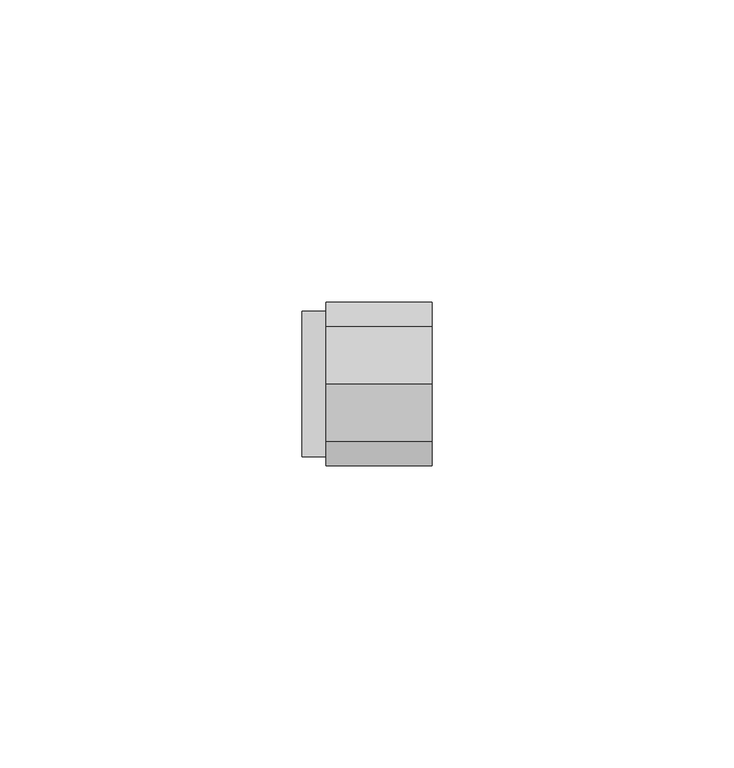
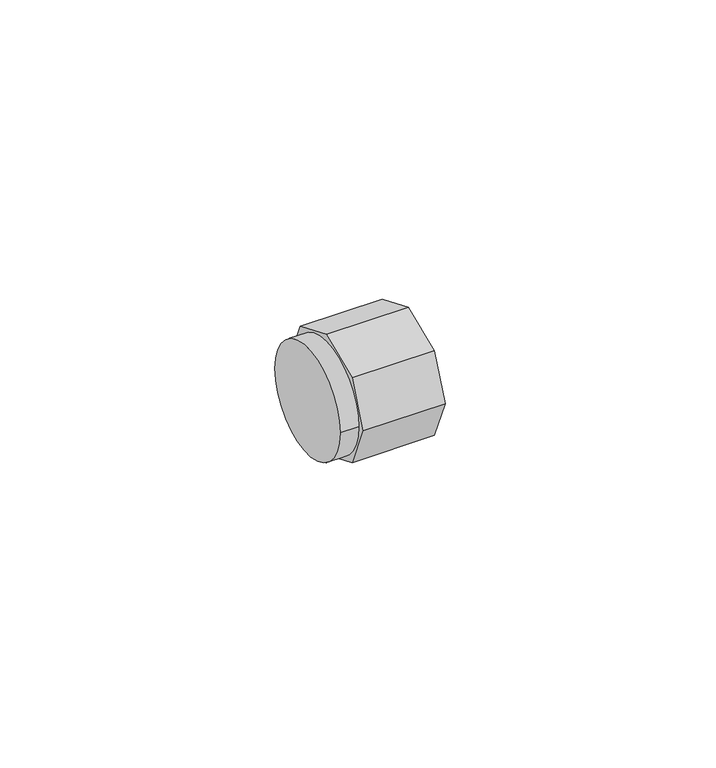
"""IFC4 building model written with IfcOpenShell, lengths in millimetres: pipe fitting geometry, REHAU_RAUTITAN_Cap_RX+ : REHAU_RAUTITAN_Cap_RX+."""

import ifcopenshell
import ifcopenshell.guid

model = None  # the IFC model being written
_history = None  # IfcOwnerHistory: only IFC2X3 demands one
_inside = {}  # id of a spatial element -> (the spatial element, [elements in it])
_under = {}  # id of a project, library or spatial element -> (it, [spatial elements below it])
_declared = {}  # id of a project -> (the project, [libraries it declares])
_typed = {}  # id of a type object -> (the type object, [elements of that type])
_made_of = {}  # id of a material, layer set ... -> (it, [elements and type objects made of it])


def new_model(schema):
    """Start an empty IFC model of exactly this schema.

    Asked for "IFC4X3", IfcOpenShell would pick the latest addendum, in which some entities
    have other attributes; the version numbers below select the first issue.
    IFC2X3 requires an IfcOwnerHistory on every rooted entity: one is made here for all.
    """
    global model, _history
    if schema == "IFC4X3":
        model = ifcopenshell.file(schema_version=(4, 3, 0, 0))
    else:
        model = ifcopenshell.file(schema=schema)
    _inside.clear()
    _under.clear()
    _declared.clear()
    _typed.clear()
    _made_of.clear()
    _history = None
    if model.schema == "IFC2X3":
        org = make("IfcOrganization", Name="unknown")
        user = make(
            "IfcPersonAndOrganization",
            ThePerson=make("IfcPerson", FamilyName="unknown"),
            TheOrganization=org,
        )
        app = make(
            "IfcApplication",
            ApplicationDeveloper=org,
            Version="unknown",
            ApplicationFullName="unknown",
            ApplicationIdentifier="unknown",
        )
        _history = make(
            "IfcOwnerHistory",
            OwningUser=user,
            OwningApplication=app,
            ChangeAction="ADDED",
            CreationDate=0,
        )
    return model


def make(cls, **values):
    """One entity of the class cls with the attributes given. An attribute that is None is left unset."""
    return model.create_entity(
        cls, **{name: value for name, value in values.items() if value is not None}
    )


def rooted(cls, **values):
    """An entity with a GlobalId (a new one), such as an element, a storey or a relation."""
    return make(cls, GlobalId=ifcopenshell.guid.new(), OwnerHistory=_history, **values)


def si_unit(unit_type, name, prefix=None):
    """IfcSIUnit, for example si_unit("LENGTHUNIT", "METRE", prefix="MILLI")."""
    return make("IfcSIUnit", UnitType=unit_type, Prefix=prefix, Name=name)


def assignment(units):
    """IfcUnitAssignment: the units of a project."""
    return None if units is None else make("IfcUnitAssignment", Units=units)


def point(xyz):
    """IfcCartesianPoint."""
    return None if xyz is None else make("IfcCartesianPoint", Coordinates=xyz)


def direction(xyz):
    """IfcDirection."""
    return None if xyz is None else make("IfcDirection", DirectionRatios=xyz)


def frame(location, z_axis=None, x_axis=None):
    """IfcAxis2Placement3D, a coordinate frame: its origin and axes. An axis left out is left unset."""
    return make(
        "IfcAxis2Placement3D",
        Location=point(location),
        Axis=direction(z_axis),
        RefDirection=direction(x_axis),
    )


def frame_2d(location, x_axis=None):
    """IfcAxis2Placement2D, a coordinate frame in the plane: its origin and x axis."""
    return make(
        "IfcAxis2Placement2D", Location=point(location), RefDirection=direction(x_axis)
    )


def origin():
    """The frame at (0, 0, 0) with its axes left unset."""
    return frame((0.0, 0.0, 0.0))


def origin_2d():
    """The frame at (0, 0) in the plane with its x axis left unset."""
    return frame_2d((0.0, 0.0))


def place(relative_to, where):
    """IfcLocalPlacement: puts the frame where relative to a parent placement (None: the world)."""
    return make(
        "IfcLocalPlacement", PlacementRelTo=relative_to, RelativePlacement=where
    )


def context(
    kind, dimensions, precision=None, world=None, true_north=None, identifier=None
):
    """IfcGeometricRepresentationContext, for example the 3D "Model" context."""
    return make(
        "IfcGeometricRepresentationContext",
        ContextIdentifier=identifier,
        ContextType=kind,
        CoordinateSpaceDimension=dimensions,
        Precision=precision,
        WorldCoordinateSystem=world,
        TrueNorth=true_north,
    )


def project(units=None, contexts=None):
    """IfcProject with its units and contexts."""
    return rooted(
        "IfcProject",
        Name="project",
        RepresentationContexts=contexts,
        UnitsInContext=assignment(units),
    )


def spatial(cls, under=None, at=None, **own):
    """A site, building, storey or space (cls), placed at a placement, below another one or the project."""
    s = rooted(cls, ObjectPlacement=at, **own)
    if under is not None:
        _under.setdefault(under.id(), (under, []))[1].append(s)
    return s


def polyline(points):
    """IfcPolyline through the points."""
    return make("IfcPolyline", Points=[point(p) for p in points])


def circle_curve(where, radius):
    """IfcCircle in the frame where."""
    return make("IfcCircle", Position=where, Radius=radius)


def trimmed(basis, trim1, trim2, sense, master):
    """IfcTrimmedCurve: the piece of a basis curve between two trims."""
    return make(
        "IfcTrimmedCurve",
        BasisCurve=basis,
        Trim1=trim1,
        Trim2=trim2,
        SenseAgreement=sense,
        MasterRepresentation=master,
    )


def segment(curve, same_sense, transition):
    """IfcCompositeCurveSegment."""
    return make(
        "IfcCompositeCurveSegment",
        Transition=transition,
        SameSense=same_sense,
        ParentCurve=curve,
    )


def composite_curve(segments, self_intersect=None):
    """IfcCompositeCurve: segments joined end to end."""
    return make("IfcCompositeCurve", Segments=segments, SelfIntersect=self_intersect)


def outline(outer, holes=None, kind="AREA"):
    """IfcArbitraryClosedProfileDef: a profile drawn as a closed curve; with holes, ...WithVoids."""
    if holes is None:
        return make("IfcArbitraryClosedProfileDef", ProfileType=kind, OuterCurve=outer)
    return make(
        "IfcArbitraryProfileDefWithVoids",
        ProfileType=kind,
        OuterCurve=outer,
        InnerCurves=holes,
    )


def extrude(swept, where, along, depth):
    """IfcExtrudedAreaSolid: the profile swept, set in the frame where, extruded along a direction by depth."""
    return make(
        "IfcExtrudedAreaSolid",
        SweptArea=swept,
        Position=where,
        ExtrudedDirection=direction(along),
        Depth=depth,
    )


def shape(context_of_items, identifier, shape_type, items):
    """IfcShapeRepresentation: the items that make up one representation, for example the "Body"."""
    return make(
        "IfcShapeRepresentation",
        ContextOfItems=context_of_items,
        RepresentationIdentifier=identifier,
        RepresentationType=shape_type,
        Items=items,
    )


def source(mapping_origin, context_of_items, identifier, shape_type, items):
    """IfcRepresentationMap: a shape defined once, which mapped items show again and again."""
    return make(
        "IfcRepresentationMap",
        MappingOrigin=mapping_origin,
        MappedRepresentation=shape(context_of_items, identifier, shape_type, items),
    )


def transform(
    local_origin,
    x_axis=None,
    y_axis=None,
    z_axis=None,
    scale=None,
    scale2=None,
    scale3=None,
    uniform=True,
):
    """IfcCartesianTransformationOperator3D, or its non-uniform kind. x_axis, y_axis, z_axis: its Axis1, 2, 3."""
    if uniform:
        return make(
            "IfcCartesianTransformationOperator3D",
            Axis1=direction(x_axis),
            Axis2=direction(y_axis),
            LocalOrigin=point(local_origin),
            Scale=scale,
            Axis3=direction(z_axis),
        )
    return make(
        "IfcCartesianTransformationOperator3DnonUniform",
        Axis1=direction(x_axis),
        Axis2=direction(y_axis),
        LocalOrigin=point(local_origin),
        Scale=scale,
        Axis3=direction(z_axis),
        Scale2=scale2,
        Scale3=scale3,
    )


def mapped(mapping_source, mapping_target):
    """IfcMappedItem: shows the shape of a source again, moved by a transform."""
    return make(
        "IfcMappedItem", MappingSource=mapping_source, MappingTarget=mapping_target
    )


def made_of(thing, what):
    """Note that an element or type object is made of a material, layer set ...; save() writes the relation."""
    if what is not None:
        _made_of.setdefault(what.id(), (what, []))[1].append(thing)
    return thing


def element(
    cls,
    number,
    at=None,
    inside=None,
    cuts=None,
    type_object=None,
    material=None,
    context=None,
    identifier="Body",
    shape_type=None,
    held_by="IfcProductDefinitionShape",
    body=None,
    shapes=None,
    **own,
):
    """One element of the class cls, such as IfcWall. Its Tag is "e" and its number.

    at: its placement. inside: the storey or other place that contains it. cuts: it is an
    opening in that element (IfcRelVoidsElement). A single representation is given by context,
    identifier, shape_type and body (its items); several are given by shapes. held_by: the class
    of the entity that holds the representations. save() writes the other relations.
    """
    e = rooted(cls, Tag="e%d" % number, ObjectPlacement=at, **own)
    if body is not None:
        shapes = [shape(context, identifier, shape_type, body)]
    if shapes is not None:
        e.Representation = make(held_by, Representations=shapes)
    if inside is not None:
        _inside.setdefault(inside.id(), (inside, []))[1].append(e)
    if cuts is not None:
        rooted(
            "IfcRelVoidsElement", RelatingBuildingElement=cuts, RelatedOpeningElement=e
        )
    if type_object is not None:
        _typed.setdefault(type_object.id(), (type_object, []))[1].append(e)
    return made_of(e, material)


def aggregate(whole, parts):
    """IfcRelAggregates: a whole, such as a stair, and the parts it consists of."""
    return rooted("IfcRelAggregates", RelatingObject=whole, RelatedObjects=parts)


def save(model, path):
    """Write the relations noted so far, then the file.

    IfcRelAggregates (storeys below a building ...), IfcRelContainedInSpatialStructure (elements
    in a storey), IfcRelDefinesByType, IfcRelAssociatesMaterial and IfcRelDeclares: one each for
    every whole, place, type object, material and project.
    """
    for whole, parts in _under.values():
        aggregate(whole, parts)
    for where, things in _inside.values():
        rooted(
            "IfcRelContainedInSpatialStructure",
            RelatedElements=things,
            RelatingStructure=where,
        )
    for kind, things in _typed.values():
        rooted("IfcRelDefinesByType", RelatedObjects=things, RelatingType=kind)
    for what, things in _made_of.values():
        rooted("IfcRelAssociatesMaterial", RelatedObjects=things, RelatingMaterial=what)
    for by, libraries in _declared.values():
        rooted("IfcRelDeclares", RelatingContext=by, RelatedDefinitions=libraries)
    model.write(path)


def pipe_fitting_3f66daf3(model_context):
    return source(origin(), model_context, "Body", "SweptSolid", [
        extrude(outline(composite_curve([segment(trimmed(circle_curve(origin_2d(), 12.0), [point((-12.0, 0.0))], [point((12.0, 0.0))], False, "CARTESIAN"), True, "CONTINUOUS"), segment(trimmed(circle_curve(origin_2d(), 12.0), [point((12.0, 0.0))], [point((-12.0, 0.0))], False, "CARTESIAN"), True, "CONTINUOUS")], self_intersect=False)), frame((-10.75, 0.0, 0.0), z_axis=(1.0, 0.0, 0.0), x_axis=(0.0, 1.0, 0.0)), (0.0, 0.0, 1.0), 4.0),
        extrude(outline(polyline([(-9.5670858, 9.5670858), (0.0, 13.5299025), (9.5670858, 9.5670858), (13.5299025, 0.0), (9.5670858, -9.5670858), (0.0, -13.5299025), (-9.5670858, -9.5670858), (-13.5299025, 0.0), (-9.5670858, 9.5670858)]), holes=[composite_curve([segment(trimmed(circle_curve(origin_2d(), 10.39), [point((-10.39, 0.0))], [point((10.39, 0.0))], True, "CARTESIAN"), True, "CONTINUOUS"), segment(trimmed(circle_curve(origin_2d(), 10.39), [point((10.39, 0.0))], [point((-10.39, 0.0))], True, "CARTESIAN"), True, "CONTINUOUS")], self_intersect=False)]), frame((-6.75, 0.0, 0.0), z_axis=(1.0, 0.0, 0.0), x_axis=(0.0, 1.0, 0.0)), (0.0, 0.0, 1.0), 17.5),
    ])


if __name__ == "__main__":
    model = new_model("IFC4")
    model_context = context("Model", 3, world=origin())
    ifc_project = project(units=[si_unit("LENGTHUNIT", "METRE", prefix="MILLI")], contexts=[model_context])
    site = spatial("IfcSite", under=ifc_project)
    building = spatial("IfcBuilding", under=site)
    placement = place(None, origin())
    pipe_fitting_shape = pipe_fitting_3f66daf3(model_context)
    element("IfcPipeFitting", 1, ObjectType="REHAU_RAUTITAN_Cap_RX+ : REHAU_RAUTITAN_Cap_RX+", at=placement, inside=building, context=model_context, shape_type="MappedRepresentation", body=[
        mapped(pipe_fitting_shape, transform((0.0, 0.0, 0.0), x_axis=(1.0, 0.0, 0.0), y_axis=(0.0, 1.0, 0.0), z_axis=(0.0, 0.0, 1.0))),
    ])
    save(model, "model.ifc")
